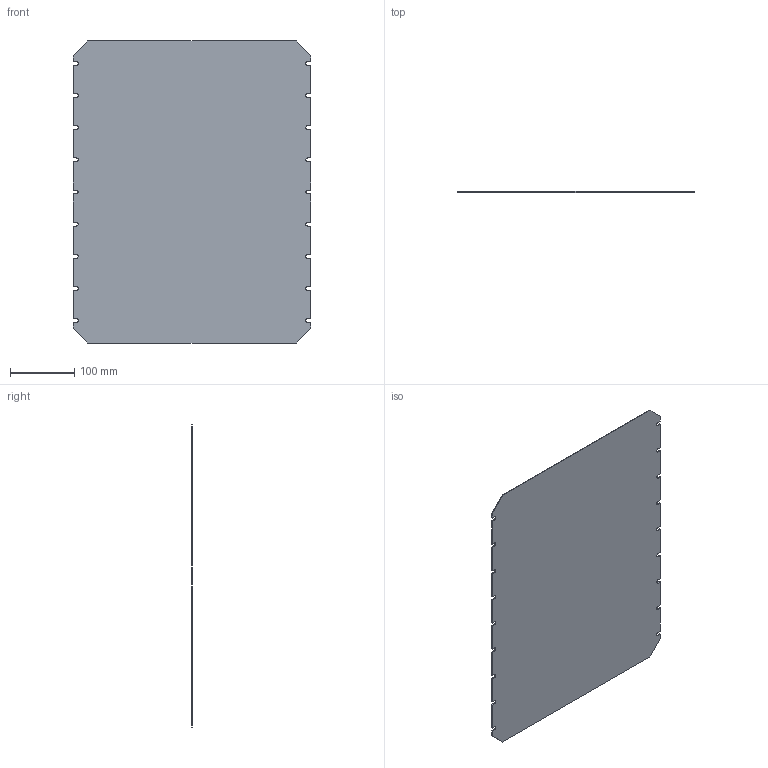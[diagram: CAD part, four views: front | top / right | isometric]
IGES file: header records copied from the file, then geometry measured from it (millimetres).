
Start section: SolidWorks IGES file using analytic representation for surfaces
Global section: file name: G:\3DRAW\EKI\3Dcam\Asennuslevyt\EKIV 54.IGS; native system: SolidWorks 2009; preprocessor: SolidWorks 2009; author: KennethW; date: 100217.140239; units: millimetre
Bounding box: 370 x 1.5 x 470 mm (x, y, z)
Surface area: 346896.6 mm2 (no closed solid volume)
Topology: 0 solids, 0 shells, 82 faces, 732 edges, 732 vertices
Faces by surface type: bspline 64, revolution 18
